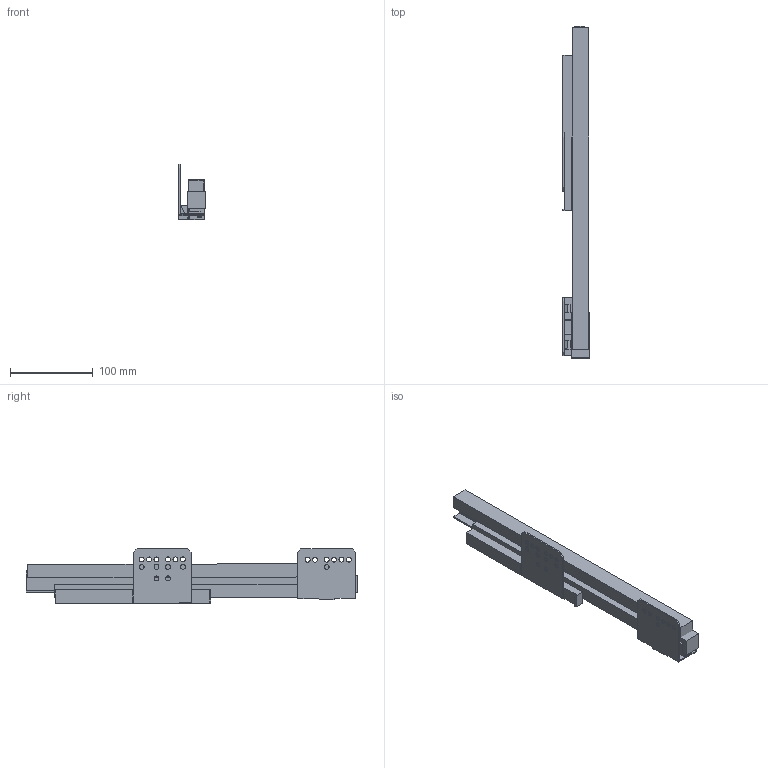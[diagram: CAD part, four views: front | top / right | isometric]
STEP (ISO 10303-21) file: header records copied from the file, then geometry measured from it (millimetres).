
FILE_DESCRIPTION (( 'STEP AP214' ), '1' );
FILE_NAME ('_IMOS Dynamic-XP VA 60kg NL400 LI.step', '2010-07-07T08:07:05', ( 'grass' ), ( '' ), 'SwSTEP 2.0', 'SolidWorks 2010', '' );
FILE_SCHEMA (( 'AUTOMOTIVE_DESIGN' ));
Length unit declared in the file: millimetre
Products named in the file (1): _IMOS Dynamic-XP VA 60kg NL400 LI
Bounding box: 32.04 x 401.95 x 66.67 mm (x, y, z)
Volume: 383634.3 mm3; surface area: 139835.5 mm2
Topology: 7 solids, 7 shells, 151 faces, 411 edges, 274 vertices
Faces by surface type: plane 111, cylinder 40
Entity records: 4913 total; most frequent: CARTESIAN_POINT 837, ORIENTED_EDGE 822, DIRECTION 795, EDGE_CURVE 411, VECTOR 331, LINE 331, VERTEX_POINT 274, AXIS2_PLACEMENT_3D 232
